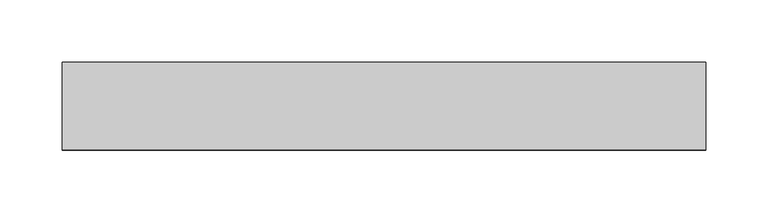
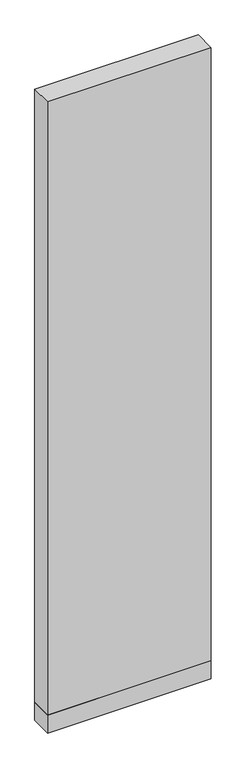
"""IFC4 building model written with IfcOpenShell, lengths in millimetres: plate geometry, 営_パーティションパネル_下部 : パーティションパネル_下部."""

import ifcopenshell
import ifcopenshell.guid

model = None  # the IFC model being written
_history = None  # IfcOwnerHistory: only IFC2X3 demands one
_inside = {}  # id of a spatial element -> (the spatial element, [elements in it])
_under = {}  # id of a project, library or spatial element -> (it, [spatial elements below it])
_declared = {}  # id of a project -> (the project, [libraries it declares])
_typed = {}  # id of a type object -> (the type object, [elements of that type])
_made_of = {}  # id of a material, layer set ... -> (it, [elements and type objects made of it])


def new_model(schema):
    """Start an empty IFC model of exactly this schema.

    Asked for "IFC4X3", IfcOpenShell would pick the latest addendum, in which some entities
    have other attributes; the version numbers below select the first issue.
    IFC2X3 requires an IfcOwnerHistory on every rooted entity: one is made here for all.
    """
    global model, _history
    if schema == "IFC4X3":
        model = ifcopenshell.file(schema_version=(4, 3, 0, 0))
    else:
        model = ifcopenshell.file(schema=schema)
    _inside.clear()
    _under.clear()
    _declared.clear()
    _typed.clear()
    _made_of.clear()
    _history = None
    if model.schema == "IFC2X3":
        org = make("IfcOrganization", Name="unknown")
        user = make(
            "IfcPersonAndOrganization",
            ThePerson=make("IfcPerson", FamilyName="unknown"),
            TheOrganization=org,
        )
        app = make(
            "IfcApplication",
            ApplicationDeveloper=org,
            Version="unknown",
            ApplicationFullName="unknown",
            ApplicationIdentifier="unknown",
        )
        _history = make(
            "IfcOwnerHistory",
            OwningUser=user,
            OwningApplication=app,
            ChangeAction="ADDED",
            CreationDate=0,
        )
    return model


def make(cls, **values):
    """One entity of the class cls with the attributes given. An attribute that is None is left unset."""
    return model.create_entity(
        cls, **{name: value for name, value in values.items() if value is not None}
    )


def rooted(cls, **values):
    """An entity with a GlobalId (a new one), such as an element, a storey or a relation."""
    return make(cls, GlobalId=ifcopenshell.guid.new(), OwnerHistory=_history, **values)


def si_unit(unit_type, name, prefix=None):
    """IfcSIUnit, for example si_unit("LENGTHUNIT", "METRE", prefix="MILLI")."""
    return make("IfcSIUnit", UnitType=unit_type, Prefix=prefix, Name=name)


def assignment(units):
    """IfcUnitAssignment: the units of a project."""
    return None if units is None else make("IfcUnitAssignment", Units=units)


def point(xyz):
    """IfcCartesianPoint."""
    return None if xyz is None else make("IfcCartesianPoint", Coordinates=xyz)


def direction(xyz):
    """IfcDirection."""
    return None if xyz is None else make("IfcDirection", DirectionRatios=xyz)


def frame(location, z_axis=None, x_axis=None):
    """IfcAxis2Placement3D, a coordinate frame: its origin and axes. An axis left out is left unset."""
    return make(
        "IfcAxis2Placement3D",
        Location=point(location),
        Axis=direction(z_axis),
        RefDirection=direction(x_axis),
    )


def origin():
    """The frame at (0, 0, 0) with its axes left unset."""
    return frame((0.0, 0.0, 0.0))


def origin_with_axes():
    """The frame at (0, 0, 0) with the z axis (0, 0, 1) and the x axis (1, 0, 0) written out."""
    return frame((0.0, 0.0, 0.0), z_axis=(0.0, 0.0, 1.0), x_axis=(1.0, 0.0, 0.0))


def place(relative_to, where):
    """IfcLocalPlacement: puts the frame where relative to a parent placement (None: the world)."""
    return make(
        "IfcLocalPlacement", PlacementRelTo=relative_to, RelativePlacement=where
    )


def context(
    kind, dimensions, precision=None, world=None, true_north=None, identifier=None
):
    """IfcGeometricRepresentationContext, for example the 3D "Model" context."""
    return make(
        "IfcGeometricRepresentationContext",
        ContextIdentifier=identifier,
        ContextType=kind,
        CoordinateSpaceDimension=dimensions,
        Precision=precision,
        WorldCoordinateSystem=world,
        TrueNorth=true_north,
    )


def project(units=None, contexts=None):
    """IfcProject with its units and contexts."""
    return rooted(
        "IfcProject",
        Name="project",
        RepresentationContexts=contexts,
        UnitsInContext=assignment(units),
    )


def spatial(cls, under=None, at=None, **own):
    """A site, building, storey or space (cls), placed at a placement, below another one or the project."""
    s = rooted(cls, ObjectPlacement=at, **own)
    if under is not None:
        _under.setdefault(under.id(), (under, []))[1].append(s)
    return s


def polyline(points):
    """IfcPolyline through the points."""
    return make("IfcPolyline", Points=[point(p) for p in points])


def outline(outer, holes=None, kind="AREA"):
    """IfcArbitraryClosedProfileDef: a profile drawn as a closed curve; with holes, ...WithVoids."""
    if holes is None:
        return make("IfcArbitraryClosedProfileDef", ProfileType=kind, OuterCurve=outer)
    return make(
        "IfcArbitraryProfileDefWithVoids",
        ProfileType=kind,
        OuterCurve=outer,
        InnerCurves=holes,
    )


def extrude(swept, where, along, depth):
    """IfcExtrudedAreaSolid: the profile swept, set in the frame where, extruded along a direction by depth."""
    return make(
        "IfcExtrudedAreaSolid",
        SweptArea=swept,
        Position=where,
        ExtrudedDirection=direction(along),
        Depth=depth,
    )


def shape(context_of_items, identifier, shape_type, items):
    """IfcShapeRepresentation: the items that make up one representation, for example the "Body"."""
    return make(
        "IfcShapeRepresentation",
        ContextOfItems=context_of_items,
        RepresentationIdentifier=identifier,
        RepresentationType=shape_type,
        Items=items,
    )


def source(mapping_origin, context_of_items, identifier, shape_type, items):
    """IfcRepresentationMap: a shape defined once, which mapped items show again and again."""
    return make(
        "IfcRepresentationMap",
        MappingOrigin=mapping_origin,
        MappedRepresentation=shape(context_of_items, identifier, shape_type, items),
    )


def transform(
    local_origin,
    x_axis=None,
    y_axis=None,
    z_axis=None,
    scale=None,
    scale2=None,
    scale3=None,
    uniform=True,
):
    """IfcCartesianTransformationOperator3D, or its non-uniform kind. x_axis, y_axis, z_axis: its Axis1, 2, 3."""
    if uniform:
        return make(
            "IfcCartesianTransformationOperator3D",
            Axis1=direction(x_axis),
            Axis2=direction(y_axis),
            LocalOrigin=point(local_origin),
            Scale=scale,
            Axis3=direction(z_axis),
        )
    return make(
        "IfcCartesianTransformationOperator3DnonUniform",
        Axis1=direction(x_axis),
        Axis2=direction(y_axis),
        LocalOrigin=point(local_origin),
        Scale=scale,
        Axis3=direction(z_axis),
        Scale2=scale2,
        Scale3=scale3,
    )


def mapped(mapping_source, mapping_target):
    """IfcMappedItem: shows the shape of a source again, moved by a transform."""
    return make(
        "IfcMappedItem", MappingSource=mapping_source, MappingTarget=mapping_target
    )


def made_of(thing, what):
    """Note that an element or type object is made of a material, layer set ...; save() writes the relation."""
    if what is not None:
        _made_of.setdefault(what.id(), (what, []))[1].append(thing)
    return thing


def element(
    cls,
    number,
    at=None,
    inside=None,
    cuts=None,
    type_object=None,
    material=None,
    context=None,
    identifier="Body",
    shape_type=None,
    held_by="IfcProductDefinitionShape",
    body=None,
    shapes=None,
    **own,
):
    """One element of the class cls, such as IfcWall. Its Tag is "e" and its number.

    at: its placement. inside: the storey or other place that contains it. cuts: it is an
    opening in that element (IfcRelVoidsElement). A single representation is given by context,
    identifier, shape_type and body (its items); several are given by shapes. held_by: the class
    of the entity that holds the representations. save() writes the other relations.
    """
    e = rooted(cls, Tag="e%d" % number, ObjectPlacement=at, **own)
    if body is not None:
        shapes = [shape(context, identifier, shape_type, body)]
    if shapes is not None:
        e.Representation = make(held_by, Representations=shapes)
    if inside is not None:
        _inside.setdefault(inside.id(), (inside, []))[1].append(e)
    if cuts is not None:
        rooted(
            "IfcRelVoidsElement", RelatingBuildingElement=cuts, RelatedOpeningElement=e
        )
    if type_object is not None:
        _typed.setdefault(type_object.id(), (type_object, []))[1].append(e)
    return made_of(e, material)


def aggregate(whole, parts):
    """IfcRelAggregates: a whole, such as a stair, and the parts it consists of."""
    return rooted("IfcRelAggregates", RelatingObject=whole, RelatedObjects=parts)


def save(model, path):
    """Write the relations noted so far, then the file.

    IfcRelAggregates (storeys below a building ...), IfcRelContainedInSpatialStructure (elements
    in a storey), IfcRelDefinesByType, IfcRelAssociatesMaterial and IfcRelDeclares: one each for
    every whole, place, type object, material and project.
    """
    for whole, parts in _under.values():
        aggregate(whole, parts)
    for where, things in _inside.values():
        rooted(
            "IfcRelContainedInSpatialStructure",
            RelatedElements=things,
            RelatingStructure=where,
        )
    for kind, things in _typed.values():
        rooted("IfcRelDefinesByType", RelatedObjects=things, RelatingType=kind)
    for what, things in _made_of.values():
        rooted("IfcRelAssociatesMaterial", RelatedObjects=things, RelatingMaterial=what)
    for by, libraries in _declared.values():
        rooted("IfcRelDeclares", RelatingContext=by, RelatedDefinitions=libraries)
    model.write(path)


def plate_90ae5f52(model_context):
    return source(origin(), model_context, "Body", "SweptSolid", [
        extrude(outline(polyline([(-257.5, -35.0), (-257.5, 35.0), (257.5, 35.0), (257.5, -35.0), (-257.5, -35.0)])), origin_with_axes(), (0.0, 0.0, 1.0), 60.0),
        extrude(outline(polyline([(-257.5, -35.0), (-257.5, 35.0), (257.5, 35.0), (257.5, -35.0), (-257.5, -35.0)])), frame((0.0, 0.0, 60.0), z_axis=(0.0, 0.0, 1.0), x_axis=(1.0, 0.0, 0.0)), (0.0, 0.0, 1.0), 2040.0),
    ])


if __name__ == "__main__":
    model = new_model("IFC4")
    model_context = context("Model", 3, world=origin())
    ifc_project = project(units=[si_unit("LENGTHUNIT", "METRE", prefix="MILLI")], contexts=[model_context])
    site = spatial("IfcSite", under=ifc_project)
    building = spatial("IfcBuilding", under=site)
    placement = place(None, origin())
    plate_shape = plate_90ae5f52(model_context)
    element("IfcPlate", 1, ObjectType="営_パーティションパネル_下部 : パーティションパネル_下部", at=placement, inside=building, context=model_context, shape_type="MappedRepresentation", body=[
        mapped(plate_shape, transform((0.0, 0.0, 0.0), x_axis=(1.0, 0.0, 0.0), y_axis=(0.0, 1.0, 0.0), z_axis=(0.0, 0.0, 1.0))),
    ])
    save(model, "model.ifc")
